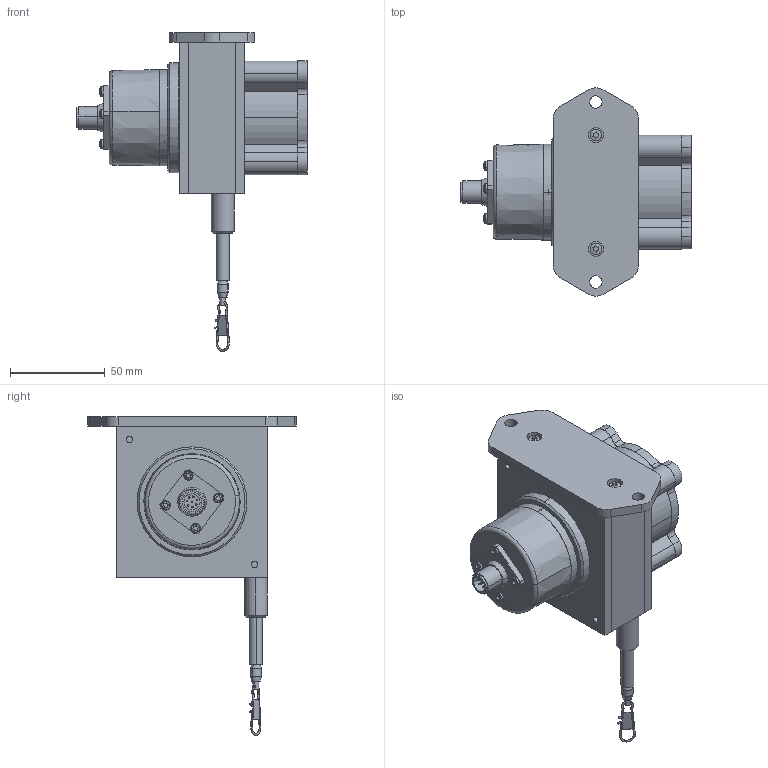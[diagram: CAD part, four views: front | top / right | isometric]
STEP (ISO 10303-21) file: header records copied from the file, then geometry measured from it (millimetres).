
FILE_DESCRIPTION (( 'STEP AP214' ), '1' );
FILE_NAME ('D8.4B1.0300.0053.2000.STEP', '2009-05-12T07:37:24', ( 'admin' ), ( 'Fritz Kübler GmbH' ), 'SwSTEP 2.0', 'SolidWorks 2009', '' );
FILE_SCHEMA (( 'AUTOMOTIVE_DESIGN' ));
Length unit declared in the file: inch
Products named in the file (1): D8.4B1.0300.0053.2000
Bounding box: 121.5 x 110 x 168.32 mm (x, y, z)
Volume: 187403.3 mm3; surface area: 109180.3 mm2
Topology: 24 solids, 24 shells, 883 faces, 2142 edges, 1325 vertices
Faces by surface type: cylinder 325, plane 322, cone 130, torus 52, sphere 38, bspline 16
Entity records: 39034 total; most frequent: CARTESIAN_POINT 6315, DIRECTION 4616, ORIENTED_EDGE 4164, EDGE_CURVE 2082, AXIS2_PLACEMENT_3D 1819, VERTEX_POINT 1308, EDGE_LOOP 1030, VECTOR 978
